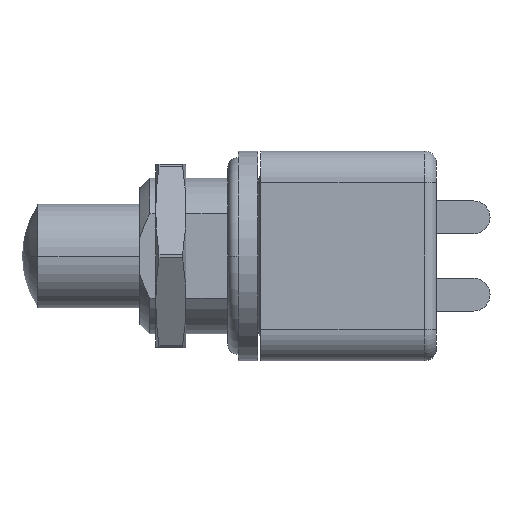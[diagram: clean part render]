
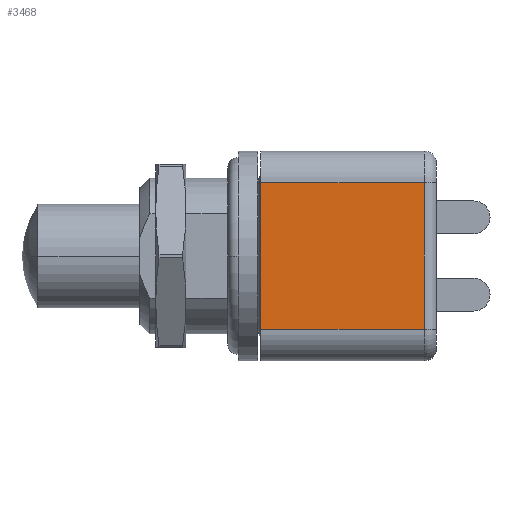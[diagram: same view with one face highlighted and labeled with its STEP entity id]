
A CAD part, left-side view. The second image highlights one B-rep face of the part: STEP entity #3468.
In plain terms, the highlighted planar face has unit normal (-1, 0, 0).
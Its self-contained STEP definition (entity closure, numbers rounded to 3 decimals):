
#1112=DIRECTION('',(0.,0.,1.));
#1113=VECTOR('',#1112,11.2);
#1114=CARTESIAN_POINT('',(-8.,-4.,-5.6));
#1115=LINE('',#1114,#1113);
#1182=DIRECTION('',(0.,-1.,0.));
#1183=VECTOR('',#1182,12.5);
#1184=CARTESIAN_POINT('',(-8.,8.5,
-5.6));
#1185=LINE('',#1184,#1183);
#1186=DIRECTION('',(0.,0.,1.));
#1187=VECTOR('',#1186,11.2);
#1188=CARTESIAN_POINT('',(-8.,8.5,
-5.6));
#1189=LINE('',#1188,#1187);
#1190=DIRECTION('',(0.,1.,0.));
#1191=VECTOR('',#1190,12.5);
#1192=CARTESIAN_POINT('',(-8.,-4.,5.6));
#1193=LINE('',#1192,#1191);
#1820=CARTESIAN_POINT('',(-8.,8.5,5.6));
#1821=VERTEX_POINT('',#1820);
#1822=CARTESIAN_POINT('',(-8.,8.5,
-5.6));
#1823=VERTEX_POINT('',#1822);
#1850=CARTESIAN_POINT('',(-8.,-4.,5.6));
#1851=VERTEX_POINT('',#1850);
#1854=CARTESIAN_POINT('',(-8.,-4.,-5.6));
#1855=VERTEX_POINT('',#1854);
#3456=CARTESIAN_POINT('',(-8.,8.5,8.));
#3457=DIRECTION('',(-1.,0.,0.));
#3458=DIRECTION('',(0.,0.,-1.));
#3459=AXIS2_PLACEMENT_3D('',#3456,#3457,#3458);
#3460=PLANE('',#3459);
#3461=ORIENTED_EDGE('',*,*,#3343,.F.);
#3462=ORIENTED_EDGE('',*,*,#3451,.F.);
#3463=ORIENTED_EDGE('',*,*,#3177,.T.);
#3465=ORIENTED_EDGE('',*,*,#3464,.F.);
#3466=EDGE_LOOP('',(#3461,#3462,#3463,#3465));
#3467=FACE_OUTER_BOUND('',#3466,.F.);
#3468=ADVANCED_FACE('',(#3467),#3460,.T.);
#3177=EDGE_CURVE('',#1823,#1821,#1189,.T.);
#3343=EDGE_CURVE('',#1855,#1851,#1115,.T.);
#3451=EDGE_CURVE('',#1823,#1855,#1185,.T.);
#3464=EDGE_CURVE('',#1851,#1821,#1193,.T.);
